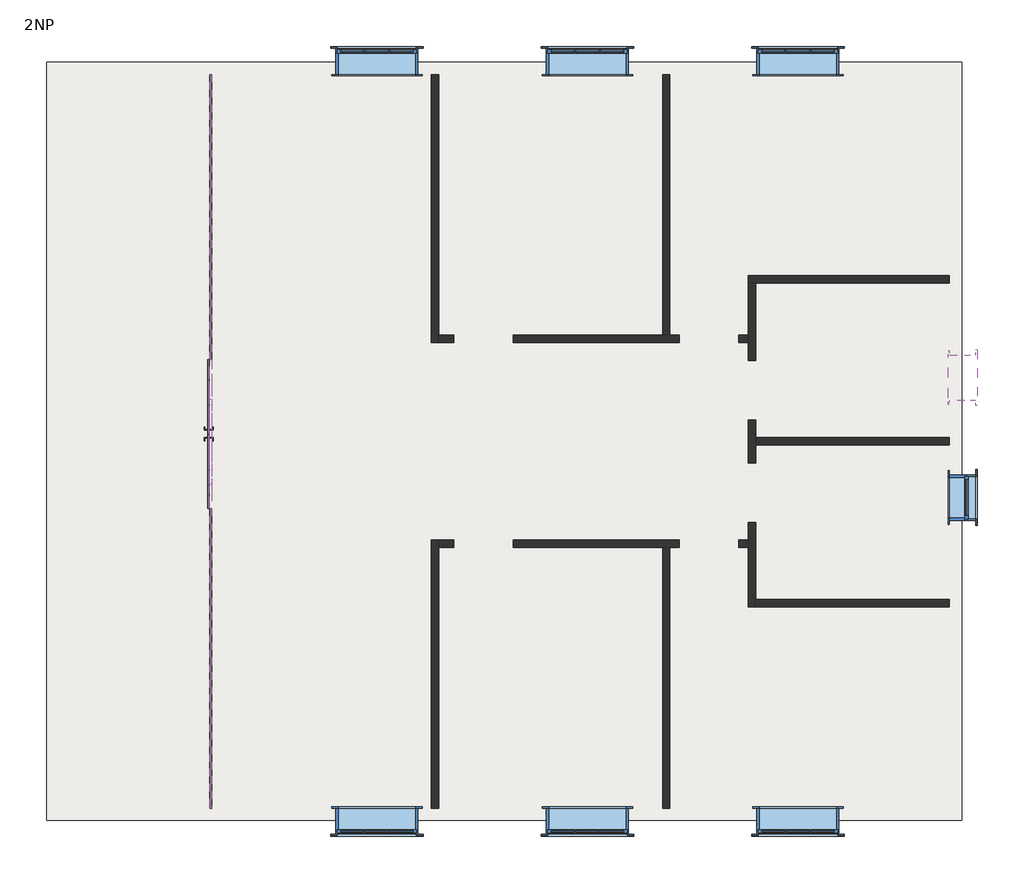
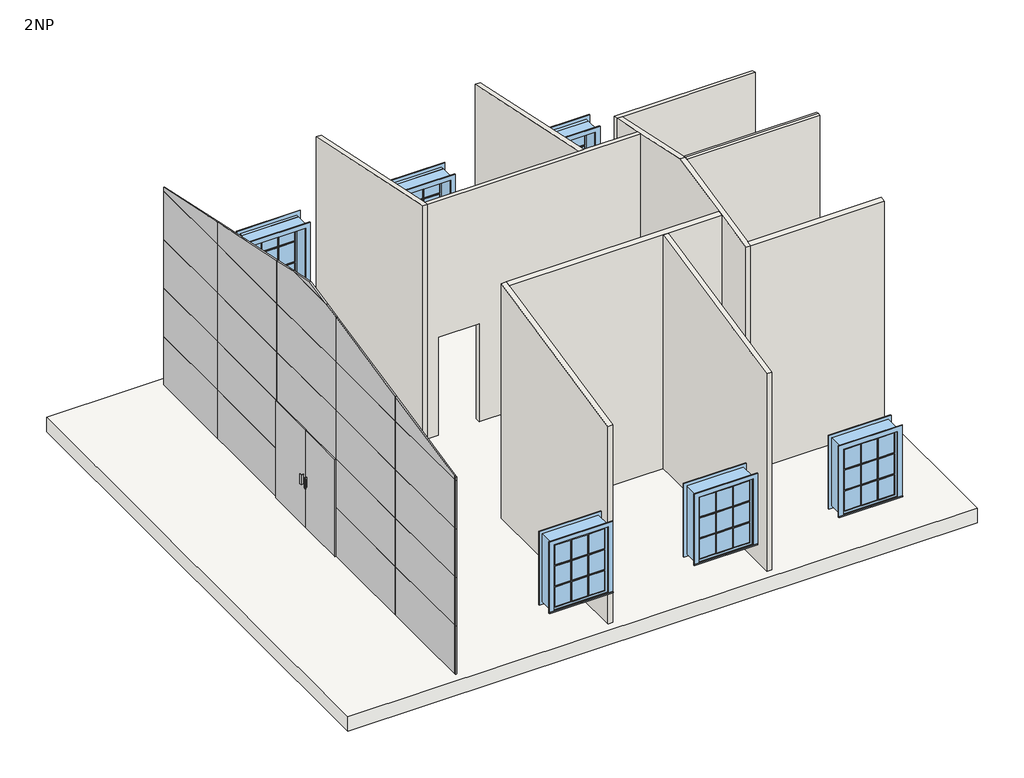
# One storey, incomplete: 30 plates, 10 walls, 8 windows, 1 slab.
"""IFC4 building model written with IfcOpenShell, lengths in millimetres."""

from ifc_helpers import new_model, si_unit, frame, origin, place, context, project, spatial, polyline, outline, extrude, faceted_brep, transform, mapped, element, save
from components import m_curtain_wall_dbl_glass_m_curtain_wall_dbl_glass_8e53cbdd, system_panel_glazed_3bc3f474, system_panel_glazed_80d48844, system_panel_glazed_b3ad26ea, system_panel_glazed_7808aa91, system_panel_glazed_57ddb692, system_panel_glazed_979c8b4f, system_panel_glazed_3117e7c3, system_panel_glazed_a84dee68, system_panel_glazed_fcf5a203, system_panel_glazed_117d8d09, m_casement_3x3_with_trim_1100_x_1400mm_61373874, m_casement_with_trim_0610_x_0610mm_632b6733

model = new_model("IFC4")

# Units and contexts
model_context = context("Model", 3, world=origin())
ifc_project = project(units=[si_unit("LENGTHUNIT", "METRE", prefix="MILLI")], contexts=[model_context])

# Site, building, storey
site = spatial("IfcSite", under=ifc_project)
building = spatial("IfcBuilding", under=site)
storey = spatial("IfcBuildingStorey", under=building, Name="2NP", Elevation=4000.0)

# Plates
placement = place(None, origin())
m_curtain_wall_dbl_glass_m_curtain_wall_dbl_glass_shape = m_curtain_wall_dbl_glass_m_curtain_wall_dbl_glass_8e53cbdd(model_context)
element("IfcPlate", 1, ObjectType="M_Curtain Wall Dbl Glass : M_Curtain Wall Dbl Glass", at=placement, inside=storey, context=model_context, shape_type="MappedRepresentation", body=[
    mapped(m_curtain_wall_dbl_glass_m_curtain_wall_dbl_glass_shape, transform((-2444.6034563, 216.1355404, 4000.0), x_axis=(0.0, -1.0, 0.0), y_axis=(1.0, 0.0, 0.0), z_axis=(0.0, 0.0, 1.0))),
])
system_panel_glazed_shape = system_panel_glazed_3bc3f474(model_context)
element("IfcPlate", 2, ObjectType="System Panel : Glazed", at=placement, inside=storey, context=model_context, shape_type="MappedRepresentation", body=[
    mapped(system_panel_glazed_shape, transform((-2444.6034563, 4128.6355404, 4000.0), x_axis=(0.0, -1.0, 0.0), y_axis=(1.0, 0.0, 0.0), z_axis=(0.0, 0.0, 1.0))),
])
element("IfcPlate", 3, ObjectType="System Panel : Glazed", at=placement, inside=storey, context=model_context, shape_type="MappedRepresentation", body=[
    mapped(system_panel_glazed_shape, transform((-2444.6034563, 4128.6355404, 5000.0), x_axis=(0.0, -1.0, 0.0), y_axis=(1.0, 0.0, 0.0), z_axis=(0.0, 0.0, 1.0))),
])
element("IfcPlate", 4, ObjectType="System Panel : Glazed", at=placement, inside=storey, context=model_context, shape_type="MappedRepresentation", body=[
    mapped(system_panel_glazed_shape, transform((-2444.6034563, 4128.6355404, 6000.0), x_axis=(0.0, -1.0, 0.0), y_axis=(1.0, 0.0, 0.0), z_axis=(0.0, 0.0, 1.0))),
])
element("IfcPlate", 5, ObjectType="System Panel : Glazed", at=placement, inside=storey, context=model_context, shape_type="MappedRepresentation", body=[
    mapped(system_panel_glazed_shape, transform((-2444.6034563, 4128.6355404, 7000.0), x_axis=(0.0, -1.0, 0.0), y_axis=(1.0, 0.0, 0.0), z_axis=(0.0, 0.0, 1.0))),
])
system_panel_glazed_2_shape = system_panel_glazed_80d48844(model_context)
element("IfcPlate", 6, ObjectType="System Panel : Glazed", at=placement, inside=storey, context=model_context, shape_type="MappedRepresentation", body=[
    mapped(system_panel_glazed_2_shape, transform((-2444.6034563, 2216.1355404, 4000.0), x_axis=(0.0, -1.0, 0.0), y_axis=(1.0, 0.0, 0.0), z_axis=(0.0, 0.0, 1.0))),
])
element("IfcPlate", 7, ObjectType="System Panel : Glazed", at=placement, inside=storey, context=model_context, shape_type="MappedRepresentation", body=[
    mapped(system_panel_glazed_2_shape, transform((-2444.6034563, -1783.8644596, 4000.0), x_axis=(0.0, -1.0, 0.0), y_axis=(1.0, 0.0, 0.0), z_axis=(0.0, 0.0, 1.0))),
])
element("IfcPlate", 8, ObjectType="System Panel : Glazed", at=placement, inside=storey, context=model_context, shape_type="MappedRepresentation", body=[
    mapped(system_panel_glazed_2_shape, transform((-2444.6034563, -3783.8644596, 4000.0), x_axis=(0.0, -1.0, 0.0), y_axis=(1.0, 0.0, 0.0), z_axis=(0.0, 0.0, 1.0))),
])
element("IfcPlate", 9, ObjectType="System Panel : Glazed", at=placement, inside=storey, context=model_context, shape_type="MappedRepresentation", body=[
    mapped(system_panel_glazed_2_shape, transform((-2444.6034563, 2216.1355404, 5000.0), x_axis=(0.0, -1.0, 0.0), y_axis=(1.0, 0.0, 0.0), z_axis=(0.0, 0.0, 1.0))),
])
element("IfcPlate", 10, ObjectType="System Panel : Glazed", at=placement, inside=storey, context=model_context, shape_type="MappedRepresentation", body=[
    mapped(system_panel_glazed_2_shape, transform((-2444.6034563, -1783.8644596, 5000.0), x_axis=(0.0, -1.0, 0.0), y_axis=(1.0, 0.0, 0.0), z_axis=(0.0, 0.0, 1.0))),
])
element("IfcPlate", 11, ObjectType="System Panel : Glazed", at=placement, inside=storey, context=model_context, shape_type="MappedRepresentation", body=[
    mapped(system_panel_glazed_2_shape, transform((-2444.6034563, -3783.8644596, 5000.0), x_axis=(0.0, -1.0, 0.0), y_axis=(1.0, 0.0, 0.0), z_axis=(0.0, 0.0, 1.0))),
])
element("IfcPlate", 12, ObjectType="System Panel : Glazed", at=placement, inside=storey, context=model_context, shape_type="MappedRepresentation", body=[
    mapped(system_panel_glazed_2_shape, transform((-2444.6034563, 2216.1355404, 6000.0), x_axis=(0.0, -1.0, 0.0), y_axis=(1.0, 0.0, 0.0), z_axis=(0.0, 0.0, 1.0))),
])
element("IfcPlate", 13, ObjectType="System Panel : Glazed", at=placement, inside=storey, context=model_context, shape_type="MappedRepresentation", body=[
    mapped(system_panel_glazed_2_shape, transform((-2444.6034563, 216.1355404, 6000.0), x_axis=(0.0, -1.0, 0.0), y_axis=(1.0, 0.0, 0.0), z_axis=(0.0, 0.0, 1.0))),
])
element("IfcPlate", 14, ObjectType="System Panel : Glazed", at=placement, inside=storey, context=model_context, shape_type="MappedRepresentation", body=[
    mapped(system_panel_glazed_2_shape, transform((-2444.6034563, -1783.8644596, 6000.0), x_axis=(0.0, -1.0, 0.0), y_axis=(1.0, 0.0, 0.0), z_axis=(0.0, 0.0, 1.0))),
])
element("IfcPlate", 15, ObjectType="System Panel : Glazed", at=placement, inside=storey, context=model_context, shape_type="MappedRepresentation", body=[
    mapped(system_panel_glazed_2_shape, transform((-2444.6034563, -3783.8644596, 6000.0), x_axis=(0.0, -1.0, 0.0), y_axis=(1.0, 0.0, 0.0), z_axis=(0.0, 0.0, 1.0))),
])
element("IfcPlate", 16, ObjectType="System Panel : Glazed", at=placement, inside=storey, context=model_context, shape_type="MappedRepresentation", body=[
    mapped(system_panel_glazed_2_shape, transform((-2444.6034563, 2216.1355404, 7000.0), x_axis=(0.0, -1.0, 0.0), y_axis=(1.0, 0.0, 0.0), z_axis=(0.0, 0.0, 1.0))),
])
element("IfcPlate", 17, ObjectType="System Panel : Glazed", at=placement, inside=storey, context=model_context, shape_type="MappedRepresentation", body=[
    mapped(system_panel_glazed_2_shape, transform((-2444.6034563, 216.1355404, 7000.0), x_axis=(0.0, -1.0, 0.0), y_axis=(1.0, 0.0, 0.0), z_axis=(0.0, 0.0, 1.0))),
])
element("IfcPlate", 18, ObjectType="System Panel : Glazed", at=placement, inside=storey, context=model_context, shape_type="MappedRepresentation", body=[
    mapped(system_panel_glazed_2_shape, transform((-2444.6034563, -1783.8644596, 7000.0), x_axis=(0.0, -1.0, 0.0), y_axis=(1.0, 0.0, 0.0), z_axis=(0.0, 0.0, 1.0))),
])
element("IfcPlate", 19, ObjectType="System Panel : Glazed", at=placement, inside=storey, context=model_context, shape_type="MappedRepresentation", body=[
    mapped(system_panel_glazed_2_shape, transform((-2444.6034563, -3783.8644596, 7000.0), x_axis=(0.0, -1.0, 0.0), y_axis=(1.0, 0.0, 0.0), z_axis=(0.0, 0.0, 1.0))),
])
system_panel_glazed_3_shape = system_panel_glazed_b3ad26ea(model_context)
element("IfcPlate", 20, ObjectType="System Panel : Glazed", at=placement, inside=storey, context=model_context, shape_type="MappedRepresentation", body=[
    mapped(system_panel_glazed_3_shape, transform((-2444.6034563, -4796.3644596, 4000.0), x_axis=(0.0, -1.0, 0.0), y_axis=(1.0, 0.0, 0.0), z_axis=(0.0, 0.0, 1.0))),
])
element("IfcPlate", 21, ObjectType="System Panel : Glazed", at=placement, inside=storey, context=model_context, shape_type="MappedRepresentation", body=[
    mapped(system_panel_glazed_3_shape, transform((-2444.6034563, -4796.3644596, 5000.0), x_axis=(0.0, -1.0, 0.0), y_axis=(1.0, 0.0, 0.0), z_axis=(0.0, 0.0, 1.0))),
])
element("IfcPlate", 22, ObjectType="System Panel : Glazed", at=placement, inside=storey, context=model_context, shape_type="MappedRepresentation", body=[
    mapped(system_panel_glazed_3_shape, transform((-2444.6034563, -4796.3644596, 6000.0), x_axis=(0.0, -1.0, 0.0), y_axis=(1.0, 0.0, 0.0), z_axis=(0.0, 0.0, 1.0))),
])
element("IfcPlate", 23, ObjectType="System Panel : Glazed", at=placement, inside=storey, context=model_context, shape_type="MappedRepresentation", body=[
    mapped(system_panel_glazed_3_shape, transform((-2444.6034563, -4796.3644596, 7000.0), x_axis=(0.0, -1.0, 0.0), y_axis=(1.0, 0.0, 0.0), z_axis=(0.0, 0.0, 1.0))),
])
system_panel_glazed_4_shape = system_panel_glazed_7808aa91(model_context)
element("IfcPlate", 24, ObjectType="System Panel : Glazed", at=placement, inside=storey, context=model_context, shape_type="MappedRepresentation", body=[
    mapped(system_panel_glazed_4_shape, transform((-2444.6034563, 4128.6355404, 8000.0), x_axis=(0.0, -1.0, 0.0), y_axis=(1.0, 0.0, 0.0), z_axis=(0.0, 0.0, 1.0))),
])
system_panel_glazed_5_shape = system_panel_glazed_57ddb692(model_context)
element("IfcPlate", 25, ObjectType="System Panel : Glazed", at=placement, inside=storey, context=model_context, shape_type="MappedRepresentation", body=[
    mapped(system_panel_glazed_5_shape, transform((-2444.6034563, 2216.1355404, 8000.0), x_axis=(0.0, -1.0, 0.0), y_axis=(1.0, 0.0, 0.0), z_axis=(0.0, 0.0, 1.0))),
])
system_panel_glazed_6_shape = system_panel_glazed_979c8b4f(model_context)
element("IfcPlate", 26, ObjectType="System Panel : Glazed", at=placement, inside=storey, context=model_context, shape_type="MappedRepresentation", body=[
    mapped(system_panel_glazed_6_shape, transform((-2444.6034563, 216.1355404, 8000.0), x_axis=(0.0, -1.0, 0.0), y_axis=(1.0, 0.0, 0.0), z_axis=(0.0, 0.0, 1.0))),
])
system_panel_glazed_7_shape = system_panel_glazed_3117e7c3(model_context)
element("IfcPlate", 27, ObjectType="System Panel : Glazed", at=placement, inside=storey, context=model_context, shape_type="MappedRepresentation", body=[
    mapped(system_panel_glazed_7_shape, transform((-2444.6034563, -1783.8644596, 8000.0), x_axis=(0.0, -1.0, 0.0), y_axis=(1.0, 0.0, 0.0), z_axis=(0.0, 0.0, 1.0))),
])
system_panel_glazed_8_shape = system_panel_glazed_a84dee68(model_context)
element("IfcPlate", 28, ObjectType="System Panel : Glazed", at=placement, inside=storey, context=model_context, shape_type="MappedRepresentation", body=[
    mapped(system_panel_glazed_8_shape, transform((-2444.6034563, -3783.8644596, 8000.0), x_axis=(0.0, -1.0, 0.0), y_axis=(1.0, 0.0, 0.0), z_axis=(0.0, 0.0, 1.0))),
])
system_panel_glazed_9_shape = system_panel_glazed_fcf5a203(model_context)
element("IfcPlate", 29, ObjectType="System Panel : Glazed", at=placement, inside=storey, context=model_context, shape_type="MappedRepresentation", body=[
    mapped(system_panel_glazed_9_shape, transform((-2444.6034563, -4796.3644596, 8000.0), x_axis=(0.0, -1.0, 0.0), y_axis=(1.0, 0.0, 0.0), z_axis=(0.0, 0.0, 1.0))),
])
system_panel_glazed_10_shape = system_panel_glazed_117d8d09(model_context)
element("IfcPlate", 30, ObjectType="System Panel : Glazed", at=placement, inside=storey, context=model_context, shape_type="MappedRepresentation", body=[
    mapped(system_panel_glazed_10_shape, transform((-2444.6034563, 116.1355404, 9000.0), x_axis=(0.0, -1.0, 0.0), y_axis=(1.0, 0.0, 0.0), z_axis=(0.0, 0.0, 1.0))),
])

# Slab
element("IfcSlab", 31, ObjectType="Generic 300mm", at=placement, inside=storey, context=model_context, shape_type="SweptSolid", body=[
    extrude(outline(polyline([(-4609.6034563, 5206.1355404), (7670.3965437, 5206.1355404), (7670.3965437, -4973.8644596), (-4609.6034563, -4973.8644596), (-4609.6034563, 5206.1355404)])), frame((0.0, 0.0, 3700.0), z_axis=(0.0, 0.0, 1.0), x_axis=(1.0, 0.0, 0.0)), (0.0, 0.0, 1.0), 300.0),
])

# Walls
element("IfcWall", 32, ObjectType="Generic - 100mm", at=placement, inside=storey, context=model_context, shape_type="Brep", body=[
    faceted_brep([(655.3965437, -4808.8644596, 4000.0), (655.3965437, -1308.8644596, 4000.0), (655.3965437, -1208.8644596, 4000.0), (655.3965437, -1208.8644596, 8839.5984186), (655.3965437, -1308.8644596, 8818.3427624), (655.3965437, -4808.8644596, 8074.3947966), (555.3965437, -4808.8644596, 4000.0), (555.3965437, -4808.8644596, 8074.3947966), (555.3965437, -1208.8644596, 8839.5984186), (555.3965437, -1208.8644596, 4000.0)], [[[0, 1, 2, 3, 4, 5]], [[6, 7, 8, 9]], [[2, 1, 0, 6, 9]], [[3, 2, 9, 8]], [[0, 5, 7, 6]], [[5, 4, 3, 8, 7]]]),
])
element("IfcWall", 33, ObjectType="Generic - 100mm", at=placement, inside=storey, context=model_context, shape_type="Brep", body=[
    faceted_brep([(1655.3965437, 1441.1355404, 4000.0), (3880.3965437, 1441.1355404, 4000.0), (3880.3965437, 1441.1355404, 6020.0), (4680.3965437, 1441.1355404, 6020.0), (4680.3965437, 1441.1355404, 4000.0), (4805.3965437, 1441.1355404, 4000.0), (4805.3965437, 1441.1355404, 8839.5984186), (655.3965437, 1441.1355404, 8839.5984186), (655.3965437, 1441.1355404, 4000.0), (855.3965437, 1441.1355404, 4000.0), (855.3965437, 1441.1355404, 6020.0), (1655.3965437, 1441.1355404, 6020.0), (3880.3965437, 1541.1355404, 6020.0), (3880.3965437, 1541.1355404, 4000.0), (3755.3965437, 1541.1355404, 4000.0), (3655.3965437, 1541.1355404, 4000.0), (1655.3965437, 1541.1355404, 4000.0), (1655.3965437, 1541.1355404, 6020.0), (855.3965437, 1541.1355404, 6020.0), (855.3965437, 1541.1355404, 4000.0), (655.3965437, 1541.1355404, 4000.0), (655.3965437, 1541.1355404, 8818.3427624), (3655.3965437, 1541.1355404, 8818.3427624), (3755.3965437, 1541.1355404, 8818.3427624), (4805.3965437, 1541.1355404, 8818.3427624), (4805.3965437, 1541.1355404, 4000.0), (4680.3965437, 1541.1355404, 4000.0), (4680.3965437, 1541.1355404, 6020.0)], [[[0, 1, 2, 3, 4, 5, 6, 7, 8, 9, 10, 11]], [[12, 13, 14, 15, 16, 17, 18, 19, 20, 21, 22, 23, 24, 25, 26, 27]], [[16, 15, 14, 13, 1, 0]], [[9, 8, 20, 19]], [[26, 25, 5, 4]], [[8, 7, 21, 20]], [[6, 5, 25, 24]], [[7, 6, 24, 23, 22, 21]], [[17, 16, 0, 11]], [[18, 17, 11, 10]], [[19, 18, 10, 9]], [[2, 1, 13, 12]], [[3, 2, 12, 27]], [[4, 3, 27, 26]]]),
])
element("IfcWall", 34, ObjectType="Generic - 100mm", at=placement, inside=storey, context=model_context, shape_type="Brep", body=[
    faceted_brep([(7505.3965437, 2341.1355404, 4000.0), (4805.3965437, 2341.1355404, 4000.0), (4805.3965437, 2341.1355404, 8648.2975131), (7505.3965437, 2341.1355404, 8648.2975131), (7505.3965437, 2241.1355404, 4000.0), (7505.3965437, 2241.1355404, 8669.5531693), (4905.3965437, 2241.1355404, 8669.5531693), (4805.3965437, 2241.1355404, 8669.5531693), (4805.3965437, 2241.1355404, 4000.0), (4905.3965437, 2241.1355404, 4000.0)], [[[0, 1, 2, 3]], [[4, 5, 6, 7, 8, 9]], [[1, 0, 4, 9, 8]], [[2, 1, 8, 7]], [[0, 3, 5, 4]], [[3, 2, 7, 6, 5]]]),
])
element("IfcWall", 35, ObjectType="Generic - 100mm", at=placement, inside=storey, context=model_context, shape_type="Brep", body=[
    faceted_brep([(4805.3965437, -971.3644596, 6020.0), (4805.3965437, -971.3644596, 4000.0), (4805.3965437, -1208.8644596, 4000.0), (4805.3965437, -1308.8644596, 4000.0), (4805.3965437, -2108.8644596, 4000.0), (4805.3965437, -2108.8644596, 8648.2975131), (4805.3965437, -1308.8644596, 8818.3427624), (4805.3965437, -1208.8644596, 8839.5984186), (4805.3965437, 116.1355404, 9121.2358628), (4805.3965437, 1441.1355404, 8839.5984186), (4805.3965437, 1541.1355404, 8818.3427624), (4805.3965437, 2241.1355404, 8669.5531693), (4805.3965437, 2241.1355404, 4000.0), (4805.3965437, 1541.1355404, 4000.0), (4805.3965437, 1441.1355404, 4000.0), (4805.3965437, 1203.6355404, 4000.0), (4805.3965437, 1203.6355404, 6020.0), (4805.3965437, 403.6355404, 6020.0), (4805.3965437, 403.6355404, 4000.0), (4805.3965437, -171.3644596, 4000.0), (4805.3965437, -171.3644596, 6020.0), (4905.3965437, -2108.8644596, 4000.0), (4905.3965437, -2008.8644596, 4000.0), (4905.3965437, -971.3644596, 4000.0), (4905.3965437, -971.3644596, 6020.0), (4905.3965437, -171.3644596, 6020.0), (4905.3965437, -171.3644596, 4000.0), (4905.3965437, 66.1355404, 4000.0), (4905.3965437, 166.1355404, 4000.0), (4905.3965437, 403.6355404, 4000.0), (4905.3965437, 403.6355404, 6020.0), (4905.3965437, 1203.6355404, 6020.0), (4905.3965437, 1203.6355404, 4000.0), (4905.3965437, 2241.1355404, 4000.0), (4905.3965437, 2241.1355404, 8669.5531693), (4905.3965437, 166.1355404, 9110.6080347), (4905.3965437, 116.1355404, 9121.2358628), (4905.3965437, 66.1355404, 9110.6080347), (4905.3965437, -2008.8644596, 8669.5531693), (4905.3965437, -2108.8644596, 8648.2975131)], [[[0, 1, 2, 3, 4, 5, 6, 7, 8, 9, 10, 11, 12, 13, 14, 15, 16, 17, 18, 19, 20]], [[21, 22, 23, 24, 25, 26, 27, 28, 29, 30, 31, 32, 33, 34, 35, 36, 37, 38, 39]], [[33, 32, 15, 14, 13, 12]], [[4, 3, 2, 1, 23, 22, 21]], [[19, 18, 29, 28, 27, 26]], [[5, 4, 21, 39]], [[12, 11, 34, 33]], [[11, 10, 9, 8, 36, 35, 34]], [[8, 7, 6, 5, 39, 38, 37, 36]], [[16, 15, 32, 31]], [[17, 16, 31, 30]], [[18, 17, 30, 29]], [[24, 23, 1, 0]], [[25, 24, 0, 20]], [[26, 25, 20, 19]]]),
])
element("IfcWall", 36, ObjectType="Generic - 100mm", at=placement, inside=storey, context=model_context, shape_type="SweptSolid", body=[
    extrude(outline(polyline([(-2108.8644596, 4000.0), (-2108.8644596, 8648.2975131), (-2008.8644596, 8669.5531693), (-2008.8644596, 4000.0), (-2108.8644596, 4000.0)])), frame((4905.3965437, 0.0, 0.0), z_axis=(1.0, 0.0, 0.0), x_axis=(0.0, 1.0, 0.0)), (0.0, 0.0, 1.0), 2600.0),
])
element("IfcWall", 37, ObjectType="Generic - 100mm", at=placement, inside=storey, context=model_context, shape_type="SweptSolid", body=[
    extrude(outline(polyline([(-1308.8644596, 4000.0), (-4808.8644596, 4000.0), (-4808.8644596, 8074.3947966), (-1308.8644596, 8818.3427624), (-1308.8644596, 4000.0)])), frame((3655.3965437, 0.0, 0.0), z_axis=(1.0, 0.0, 0.0), x_axis=(0.0, 1.0, 0.0)), (0.0, 0.0, 1.0), 100.0),
])
element("IfcWall", 38, ObjectType="Generic - 100mm", at=placement, inside=storey, context=model_context, shape_type="SweptSolid", body=[
    extrude(outline(polyline([(1541.1355404, 4000.0), (1541.1355404, 8818.3427624), (5041.1355404, 8074.3947966), (5041.1355404, 4000.0), (1541.1355404, 4000.0)])), frame((3655.3965437, 0.0, 0.0), z_axis=(1.0, 0.0, 0.0), x_axis=(0.0, 1.0, 0.0)), (0.0, 0.0, 1.0), 100.0),
])
element("IfcWall", 39, ObjectType="Generic - 100mm", at=placement, inside=storey, context=model_context, shape_type="SweptSolid", body=[
    extrude(outline(polyline([(66.1355404, 4000.0), (66.1355404, 9110.6080347), (116.1355404, 9121.2358628), (166.1355404, 9110.6080347), (166.1355404, 4000.0), (66.1355404, 4000.0)])), frame((4905.3965437, 0.0, 0.0), z_axis=(1.0, 0.0, 0.0), x_axis=(0.0, 1.0, 0.0)), (0.0, 0.0, 1.0), 2600.0),
])
element("IfcWall", 40, ObjectType="Generic - 100mm", at=placement, inside=storey, context=model_context, shape_type="Brep", body=[
    faceted_brep([(655.3965437, 1441.1355404, 4000.0), (655.3965437, 1541.1355404, 4000.0), (655.3965437, 5041.1355404, 4000.0), (655.3965437, 5041.1355404, 8074.3947966), (655.3965437, 1541.1355404, 8818.3427624), (655.3965437, 1441.1355404, 8839.5984186), (555.3965437, 1441.1355404, 4000.0), (555.3965437, 1441.1355404, 8839.5984186), (555.3965437, 5041.1355404, 8074.3947966), (555.3965437, 5041.1355404, 4000.0)], [[[0, 1, 2, 3, 4, 5]], [[6, 7, 8, 9]], [[2, 1, 0, 6, 9]], [[0, 5, 7, 6]], [[3, 2, 9, 8]], [[5, 4, 3, 8, 7]]]),
])
element("IfcWall", 41, ObjectType="Generic - 100mm", at=placement, inside=storey, context=model_context, shape_type="Brep", body=[
    faceted_brep([(1655.3965437, -1308.8644596, 4000.0), (3655.3965437, -1308.8644596, 4000.0), (3755.3965437, -1308.8644596, 4000.0), (3880.3965437, -1308.8644596, 4000.0), (3880.3965437, -1308.8644596, 6020.0), (4680.3965437, -1308.8644596, 6020.0), (4680.3965437, -1308.8644596, 4000.0), (4805.3965437, -1308.8644596, 4000.0), (4805.3965437, -1308.8644596, 8818.3427624), (3755.3965437, -1308.8644596, 8818.3427624), (3655.3965437, -1308.8644596, 8818.3427624), (655.3965437, -1308.8644596, 8818.3427624), (655.3965437, -1308.8644596, 4000.0), (855.3965437, -1308.8644596, 4000.0), (855.3965437, -1308.8644596, 6020.0), (1655.3965437, -1308.8644596, 6020.0), (3880.3965437, -1208.8644596, 6020.0), (3880.3965437, -1208.8644596, 4000.0), (1655.3965437, -1208.8644596, 4000.0), (1655.3965437, -1208.8644596, 6020.0), (855.3965437, -1208.8644596, 6020.0), (855.3965437, -1208.8644596, 4000.0), (655.3965437, -1208.8644596, 4000.0), (655.3965437, -1208.8644596, 8839.5984186), (4805.3965437, -1208.8644596, 8839.5984186), (4805.3965437, -1208.8644596, 4000.0), (4680.3965437, -1208.8644596, 4000.0), (4680.3965437, -1208.8644596, 6020.0)], [[[0, 1, 2, 3, 4, 5, 6, 7, 8, 9, 10, 11, 12, 13, 14, 15]], [[16, 17, 18, 19, 20, 21, 22, 23, 24, 25, 26, 27]], [[18, 17, 3, 2, 1, 0]], [[13, 12, 22, 21]], [[26, 25, 7, 6]], [[12, 11, 23, 22]], [[8, 7, 25, 24]], [[11, 10, 9, 8, 24, 23]], [[19, 18, 0, 15]], [[20, 19, 15, 14]], [[21, 20, 14, 13]], [[4, 3, 17, 16]], [[5, 4, 16, 27]], [[6, 5, 27, 26]]]),
])

# Windows
m_casement_3x3_with_trim_1100_x_1400mm_shape = m_casement_3x3_with_trim_1100_x_1400mm_61373874(model_context)
element("IfcWindow", 42, ObjectType="M_Casement 3x3 with Trim : 1100 x 1400mm", at=placement, inside=storey, context=model_context, shape_type="MappedRepresentation", body=[
    mapped(m_casement_3x3_with_trim_1100_x_1400mm_shape, transform((-177.1034563, -4983.8644596, 4000.0), x_axis=(-1.0, 0.0, 0.0), y_axis=(0.0, -1.0, 0.0), z_axis=(0.0, 0.0, 1.0))),
])
element("IfcWindow", 43, ObjectType="M_Casement 3x3 with Trim : 1100 x 1400mm", at=placement, inside=storey, context=model_context, shape_type="MappedRepresentation", body=[
    mapped(m_casement_3x3_with_trim_1100_x_1400mm_shape, transform((2647.8965437, -4983.8644596, 4000.0), x_axis=(-1.0, 0.0, 0.0), y_axis=(0.0, -1.0, 0.0), z_axis=(0.0, 0.0, 1.0))),
])
element("IfcWindow", 44, ObjectType="M_Casement 3x3 with Trim : 1100 x 1400mm", at=placement, inside=storey, context=model_context, shape_type="MappedRepresentation", body=[
    mapped(m_casement_3x3_with_trim_1100_x_1400mm_shape, transform((5472.8965437, -4983.8644596, 4000.0), x_axis=(-1.0, 0.0, 0.0), y_axis=(0.0, -1.0, 0.0), z_axis=(0.0, 0.0, 1.0))),
])
element("IfcWindow", 45, ObjectType="M_Casement 3x3 with Trim : 1100 x 1400mm", at=placement, inside=storey, context=model_context, shape_type="MappedRepresentation", body=[
    mapped(m_casement_3x3_with_trim_1100_x_1400mm_shape, transform((5472.8965437, 5216.1355404, 4000.0), x_axis=(1.0, 0.0, 0.0), y_axis=(0.0, 1.0, 0.0), z_axis=(0.0, 0.0, 1.0))),
])
element("IfcWindow", 46, ObjectType="M_Casement 3x3 with Trim : 1100 x 1400mm", at=placement, inside=storey, context=model_context, shape_type="MappedRepresentation", body=[
    mapped(m_casement_3x3_with_trim_1100_x_1400mm_shape, transform((2647.8965437, 5216.1355404, 4000.0), x_axis=(1.0, 0.0, 0.0), y_axis=(0.0, 1.0, 0.0), z_axis=(0.0, 0.0, 1.0))),
])
element("IfcWindow", 47, ObjectType="M_Casement 3x3 with Trim : 1100 x 1400mm", at=placement, inside=storey, context=model_context, shape_type="MappedRepresentation", body=[
    mapped(m_casement_3x3_with_trim_1100_x_1400mm_shape, transform((-177.1034563, 5216.1355404, 4000.0), x_axis=(1.0, 0.0, 0.0), y_axis=(0.0, 1.0, 0.0), z_axis=(0.0, 0.0, 1.0))),
])
m_casement_with_trim_0610_x_0610mm_shape = m_casement_with_trim_0610_x_0610mm_632b6733(model_context)
element("IfcWindow", 48, ObjectType="M_Casement with Trim : 0610 x 0610mm", at=placement, inside=storey, context=model_context, shape_type="MappedRepresentation", body=[
    mapped(m_casement_with_trim_0610_x_0610mm_shape, transform((7680.3965437, 971.1355404, 4790.0), x_axis=(0.0, -1.0, 0.0), y_axis=(1.0, 0.0, 0.0), z_axis=(0.0, 0.0, 1.0))),
])
element("IfcWindow", 49, ObjectType="M_Casement with Trim : 0610 x 0610mm", at=placement, inside=storey, context=model_context, shape_type="MappedRepresentation", body=[
    mapped(m_casement_with_trim_0610_x_0610mm_shape, transform((7680.3965437, -638.8644596, 4000.0), x_axis=(0.0, -1.0, 0.0), y_axis=(1.0, 0.0, 0.0), z_axis=(0.0, 0.0, 1.0))),
])

save(model, "model.ifc")
